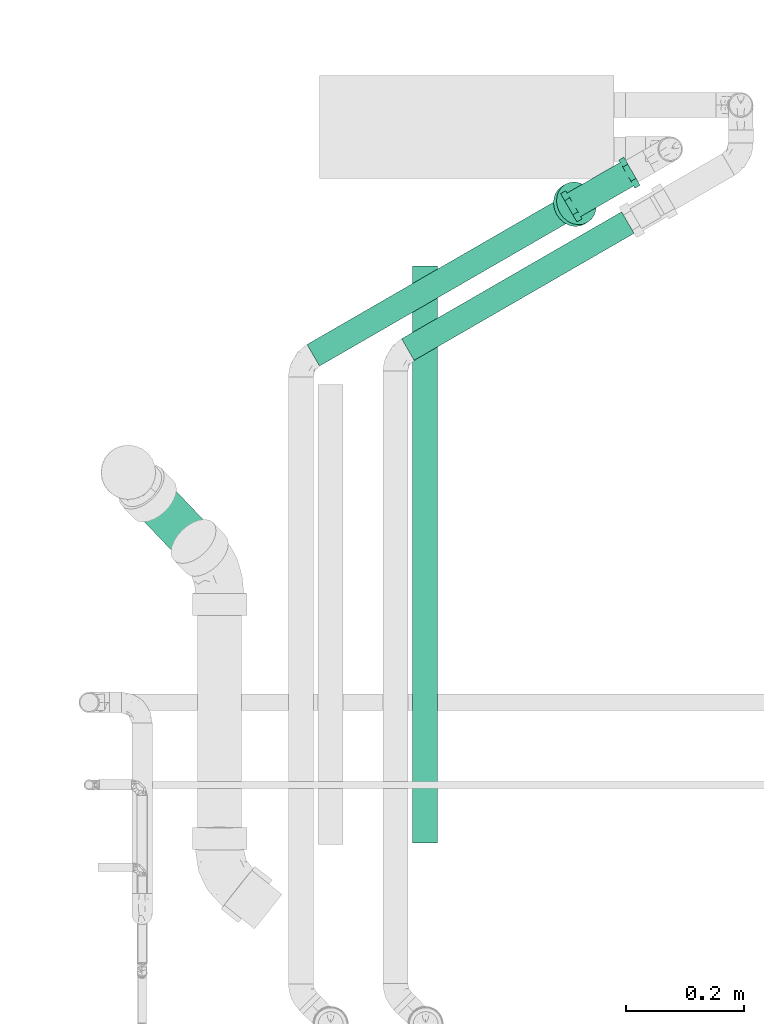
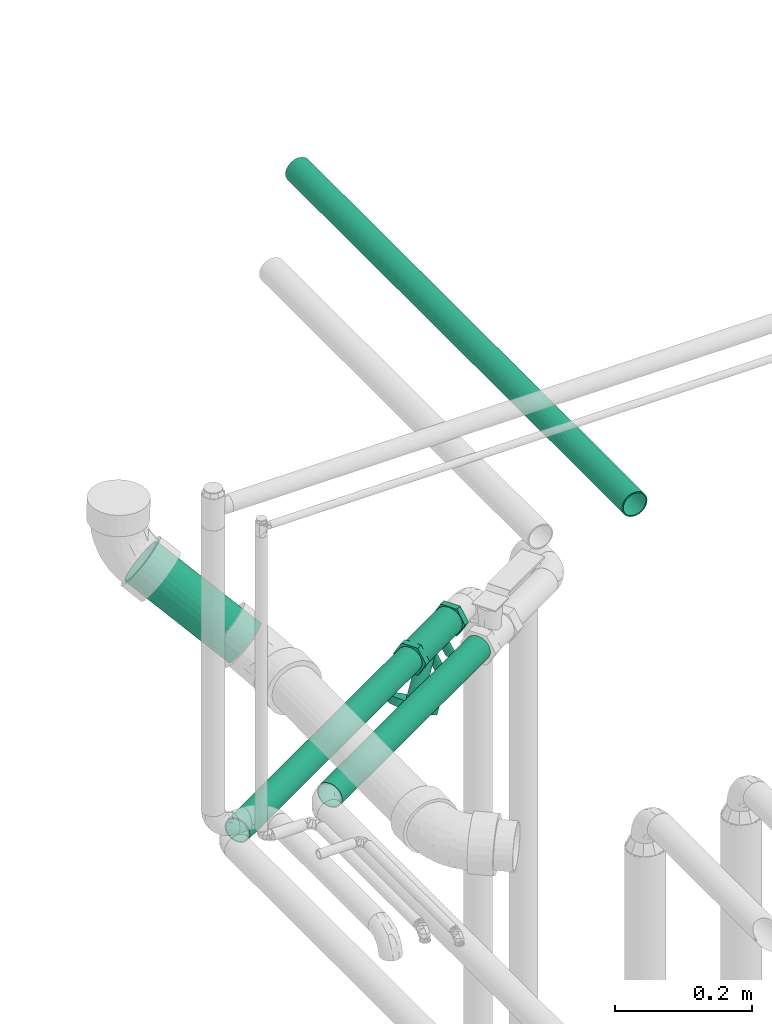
# One storey, part 42 of 108: 4 flow segments, 1 flow controller.
"""IFC2X3 building model written with IfcOpenShell, lengths in millimetres."""

from ifc_helpers import new_model, entity, si_unit, converted_unit, derived_unit, direction, frame, origin_with_axes, origin_2d_with_axis, place, context, subcontext, project, spatial, hollow_circle, extrude, open_shell, surface_model, source, transform, mapped, type_object, element, save


model = new_model("IFC2X3")

# Units and contexts
model_context = context("Model", 3, precision=0.01, world=frame((0.0, 4.29681676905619e-09, 0.0)), true_north=direction((4.01073788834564e-13, 1.0)))
plan_context = context("Plan", 3, precision=0.01, world=frame((0.0, 4.29681676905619e-09, 0.0)), true_north=direction((4.01073788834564e-13, 1.0)))
body_context = subcontext(model_context, "Body", "Model", "MODEL_VIEW")
ifc_project = project(units=[converted_unit("PLANEANGLEUNIT", "DEGREE", entity("IfcPositiveLengthMeasure", 0.0174532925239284), si_unit("PLANEANGLEUNIT", "RADIAN"), dimensions=[0, 0, 0, 0, 0, 0, 0]), si_unit("AREAUNIT", "SQUARE_METRE"), si_unit("LENGTHUNIT", "METRE", prefix="MILLI"), si_unit("MASSUNIT", "GRAM", prefix="KILO"), si_unit("POWERUNIT", "WATT"), si_unit("PRESSUREUNIT", "PASCAL", prefix="KILO"), si_unit("FORCEUNIT", "NEWTON", prefix="KILO"), si_unit("ELECTRICVOLTAGEUNIT", "VOLT"), si_unit("ELECTRICCURRENTUNIT", "AMPERE"), si_unit("THERMODYNAMICTEMPERATUREUNIT", "DEGREE_CELSIUS"), si_unit("TIMEUNIT", "SECOND"), si_unit("VOLUMEUNIT", "CUBIC_METRE"), derived_unit("LINEARVELOCITYUNIT", [(si_unit("LENGTHUNIT", "METRE"), 1), (si_unit("TIMEUNIT", "SECOND"), -1)]), derived_unit("VOLUMETRICFLOWRATEUNIT", [(si_unit("VOLUMEUNIT", "CUBIC_METRE"), 1), (si_unit("TIMEUNIT", "SECOND"), -1)]), derived_unit("THERMALTRANSMITTANCEUNIT", [(si_unit("POWERUNIT", "WATT"), 1), (si_unit("THERMODYNAMICTEMPERATUREUNIT", "KELVIN"), -1), (si_unit("AREAUNIT", "SQUARE_METRE"), -1)]), derived_unit("SOUNDPRESSUREUNIT", [(si_unit("PRESSUREUNIT", "PASCAL"), 1)])], contexts=[model_context, plan_context])

# Site, building, storey
site_placement = place(None, frame((0.0, -4.29681676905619e-09, 0.0), z_axis=(0.0, 0.0, 1.0), x_axis=(1.0, 0.0, 0.0)))
site = spatial("IfcSite", under=ifc_project, at=site_placement, CompositionType="ELEMENT")
building_placement = place(site_placement, frame((0.0, 4.29681676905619e-09, 0.0), z_axis=(0.0, 0.0, 1.0), x_axis=(1.0, 0.0, 0.0)))
building = spatial("IfcBuilding", under=site, at=building_placement, Name="mc-building", CompositionType="ELEMENT")
storey_placement = place(building_placement, frame((0.0, 0.0, 210200.0), z_axis=(0.0, 0.0, 1.0), x_axis=(1.0, 0.0, 0.0)))
storey = spatial("IfcBuildingStorey", under=building, at=storey_placement, Name="Nivå F - 0,7 m", CompositionType="ELEMENT", Elevation=210200.0)

# Flow controller
valve_type = type_object("IfcValveType", Name="STAD/F-32", PredefinedType="NOTDEFINED")
shared_shape_1 = source(origin_with_axes(), body_context, "Body", "SurfaceModel", [
    surface_model("IfcShellBasedSurfaceModel", [(5.41266, -10.82532, 3.125), (7.65466, -8.83883, 4.41942), (5.32606, -10.65211, 3.075), (2.75697, -11.88089, 1.59174), (0.0, -12.3, 0.0), (2.8018, -12.07407, 1.61762), (0.0, -12.5, 0.0), (7.53218, -8.69741, 4.34871), (10.45645, -3.23524, 6.03704), (10.65211, 0.0, 6.15), (10.28915, -3.18347, 5.94044), (10.82532, 0.0, 6.25), (9.375, -6.25, 5.41266), (9.225, -6.15, 5.32606), (-2.75697, -11.88089, -1.59174), (-2.8018, -12.07407, -1.61762), (-5.32606, -10.65211, -3.075), (-7.65466, -8.83883, -4.41942), (-5.41266, -10.82532, -3.125), (-7.53218, -8.69741, -4.34871), (-9.225, -6.15, -5.32606), (-9.375, -6.25, -5.41266), (-10.28915, -3.18347, -5.94044), (-10.45645, -3.23524, -6.03704), (-10.65211, 0.0, -6.15), (-10.82532, 0.0, -6.25), (10.45645, 3.23524, 6.03704), (10.28915, 3.18347, 5.94044), (9.225, 6.15, 5.32606), (9.375, 6.25, 5.41266), (7.53218, 8.69741, 4.34871), (7.65466, 8.83883, 4.41942), (5.41266, 10.82532, 3.125), (5.32606, 10.65211, 3.075), (2.75697, 11.88089, 1.59174), (2.8018, 12.07407, 1.61762), (0.0, 12.3, 0.0), (0.0, 12.5, 0.0), (-9.375, 6.25, -5.41266), (-9.225, 6.15, -5.32606), (-7.65466, 8.83883, -4.41942), (-7.53218, 8.69741, -4.34871), (-10.45645, 3.23524, -6.03704), (-10.28915, 3.18347, -5.94044), (-2.75697, 11.88089, -1.59174), (-2.8018, 12.07407, -1.61762), (-5.32606, 10.65211, -3.075), (-5.41266, 10.82532, -3.125), (62.0, 13.86, -24.00622), (62.0, 27.72, 0.0), (62.0, -13.86, -24.00622), (62.0, 13.86, 24.00622), (62.0, -13.86, 24.00622), (62.0, -27.72, 0.0), (52.0, -27.72, 0.0), (52.0, -13.86, 24.00622), (52.0, -13.86, -24.00622), (52.0, 27.72, 0.0), (52.0, 13.86, -24.00622), (52.0, 13.86, 24.00622), (-62.0, -13.86, -24.00622), (-62.0, -27.72, 0.0), (-62.0, 13.86, -24.00622), (-62.0, -13.86, 24.00622), (-62.0, 13.86, 24.00622), (-62.0, 27.72, 0.0), (-52.0, 27.72, 0.0), (-52.0, 13.86, 24.00622), (-52.0, 13.86, -24.00622), (-52.0, -27.72, 0.0), (-52.0, -13.86, -24.00622), (-52.0, -13.86, 24.00622), (61.40539, 36.22222, -86.94584), (69.23797, 32.47595, -82.42369), (75.96396, 26.5165, -78.54045), (36.76202, 32.47595, -101.17369), (84.36936, 9.70571, -73.68759), (81.125, 18.75, -75.56072), (21.63063, -9.70571, -109.90981), (21.63063, 9.70571, -109.90981), (44.5946, 36.22222, -96.65155), (52.99999, 37.5, -91.79869), (30.03603, 26.5165, -105.05695), (24.87499, 18.75, -108.03667), (85.47595, 0.0, -73.0487), (52.99999, -37.5, -91.79869), (84.36936, -9.70571, -73.68759), (81.125, -18.75, -75.56072), (69.23797, -32.47595, -82.42369), (75.96396, -26.5165, -78.54045), (61.40539, -36.22222, -86.94584), (24.87499, -18.75, -108.03667), (20.52404, 0.0, -110.54869), (36.76202, -32.47595, -101.17369), (30.03603, -26.5165, -105.05695), (44.5946, -36.22222, -96.65155), (78.36936, -9.70571, -63.29528), (47.0, -37.5, -81.40639), (55.40539, -36.22222, -76.55353), (63.23797, -32.47595, -72.03139), (75.125, -18.75, -65.16841), (69.96396, -26.5165, -68.14814), (15.63063, -9.70571, -99.5175), (38.5946, -36.22222, -86.25925), (24.03603, -26.5165, -94.66464), (30.76202, -32.47595, -90.78139), (18.87499, -18.75, -97.64437), (15.63063, 9.70571, -99.5175), (14.52404, 0.0, -100.15639), (69.96396, 26.5165, -68.14814), (78.36936, 9.70571, -63.29528), (75.125, 18.75, -65.16841), (63.23797, 32.47595, -72.03139), (55.40539, 36.22222, -76.55353), (30.76202, 32.47595, -90.78139), (18.87499, 18.75, -97.64437), (24.03603, 26.5165, -94.66464), (47.0, 37.5, -81.40639), (38.5946, 36.22222, -86.25925), (79.47595, 0.0, -62.65639), (52.0, 11.55, -20.00519), (52.0, -5.97872, -22.31289), (52.0, 5.97872, -22.31289), (52.0, 20.00519, -11.55), (52.0, 16.33417, -16.33417), (52.0, -22.31289, -5.97872), (52.0, 22.31289, -5.97872), (52.0, -16.33417, 16.33417), (52.0, -11.55, -20.00519), (52.0, 0.0, -23.1), (52.0, -16.33417, -16.33417), (52.0, -20.00519, -11.55), (52.0, 23.1, 0.0), (52.0, 22.31289, 5.97872), (52.0, 20.00519, 11.55), (52.0, 16.33417, 16.33417), (52.0, 11.55, 20.00519), (52.0, 5.97872, 22.31289), (52.0, 0.0, 23.1), (52.0, -22.31289, 5.97872), (52.0, -20.00519, 11.55), (52.0, -23.1, 0.0), (52.0, -5.97872, 22.31289), (52.0, -11.55, 20.00519), (-52.0, 0.0, 23.1), (-52.0, 5.97872, 22.31289), (-52.0, 11.55, 20.00519), (-52.0, -16.33417, 16.33417), (-52.0, 16.33417, 16.33417), (-52.0, 20.00519, 11.55), (-52.0, 22.31289, 5.97872), (-52.0, -5.97872, 22.31289), (-52.0, -11.55, 20.00519), (-52.0, -22.31289, 5.97872), (-52.0, -20.00519, 11.55), (-52.0, -23.1, 0.0), (-52.0, -22.31289, -5.97872), (-52.0, 22.31289, -5.97872), (-52.0, 16.33417, -16.33417), (-52.0, 20.00519, -11.55), (-52.0, -5.97872, -22.31289), (-52.0, 11.55, -20.00519), (-52.0, 0.0, -23.1), (-52.0, 5.97872, -22.31289), (-52.0, -16.33417, -16.33417), (-52.0, -20.00519, -11.55), (-52.0, -11.55, -20.00519), (-52.0, 23.1, 0.0), (-26.24732, 7.24444, -75.15582), (-24.68081, 6.49519, -76.06025), (-23.33561, 5.3033, -76.8369), (-31.176, 6.49519, -72.31025), (-22.3034, 3.75, -77.43284), (-21.65453, 1.94114, -77.80747), (-21.43321, 0.0, -77.93525), (-21.65453, -1.94114, -77.80747), (-33.5534, 3.75, -70.93765), (-27.9284, 7.5, -74.18525), (-29.60948, 7.24444, -73.21468), (-32.5212, 5.3033, -71.5336), (-34.42359, 0.0, -70.43524), (-34.20228, 1.94114, -70.56303), (-22.3034, -3.75, -77.43284), (-23.33561, -5.3033, -76.8369), (-24.68081, -6.49519, -76.06025), (-26.24732, -7.24444, -75.15582), (-27.9284, -7.5, -74.18525), (-29.60948, -7.24444, -73.21468), (-34.20228, -1.94114, -70.56303), (-31.176, -6.49519, -72.31025), (-33.5534, -3.75, -70.93765), (-32.5212, -5.3033, -71.5336), (19.69659, -3.75, -4.68671), (14.07159, -7.5, -1.43911), (15.75267, -7.24444, -2.40968), (18.66439, -5.3033, -4.09076), (17.31919, -6.49519, -3.31411), (9.4788, -5.3033, 1.21254), (8.44659, -3.75, 1.80848), (20.34547, -1.94114, -5.06133), (12.39051, -7.24444, -0.46854), (10.824, -6.49519, 0.43589), (7.79772, -1.94114, 2.18311), (7.79772, 1.94114, 2.18311), (7.5764, 0.0, 2.31089), (10.824, 6.49519, 0.43589), (18.66439, 5.3033, -4.09076), (20.56678, 0.0, -5.18911), (20.34547, 1.94114, -5.06133), (19.69659, 3.75, -4.68671), (17.31919, 6.49519, -3.31411), (15.75267, 7.24444, -2.40968), (9.4788, 5.3033, 1.21254), (8.44659, 3.75, 1.80848), (14.07159, 7.5, -1.43911), (12.39051, 7.24444, -0.46854), (-48.50132, 1.94114, -62.30747), (-53.09411, 7.24444, -59.65582), (-51.5276, 6.49519, -60.56025), (-50.1824, 5.3033, -61.33689), (-61.04906, 1.94114, -55.06303), (-49.15019, 3.75, -61.93284), (-59.36798, -5.3033, -56.0336), (-56.45627, 7.24444, -57.71467), (-54.77519, 7.5, -58.68524), (-58.02278, 6.49519, -56.81025), (-59.36798, 5.3033, -56.0336), (-60.40019, 3.75, -55.43765), (-48.28, 0.0, -62.43525), (-48.50132, -1.94114, -62.30747), (-49.15019, -3.75, -61.93284), (-50.1824, -5.3033, -61.33689), (-53.09411, -7.24444, -59.65582), (-51.5276, -6.49519, -60.56025), (-54.77519, -7.5, -58.68524), (-61.04906, -1.94114, -55.06303), (-60.40019, -3.75, -55.43765), (-61.27038, 0.0, -54.93525), (-56.45627, -7.24444, -57.71467), (-58.02278, -6.49519, -56.81025), (-28.59411, -7.24444, -17.22057), (-34.86799, -5.3033, -13.59835), (-30.27519, -7.5, -16.25), (-25.6824, -5.3033, -18.90165), (-27.0276, -6.49519, -18.125), (-24.65019, -3.75, -19.49759), (-24.00132, -1.94114, -19.87222), (-36.54907, 1.94114, -12.62778), (-31.95627, -7.24444, -15.27943), (-33.52279, -6.49519, -14.375), (-35.90019, -3.75, -13.00241), (-36.54907, -1.94114, -12.62778), (-36.77038, 0.0, -12.5), (-24.00132, 1.94114, -19.87222), (-25.6824, 5.3033, -18.90165), (-24.65019, 3.75, -19.49759), (-27.0276, 6.49519, -18.125), (-28.59411, 7.24444, -17.22057), (-34.86799, 5.3033, -13.59835), (-35.90019, 3.75, -13.00241), (-33.52279, 6.49519, -14.375), (-30.27519, 7.5, -16.25), (-31.95627, 7.24444, -15.27943), (-23.78, 0.0, -20.0), (52.41265, 10.82532, -78.28139), (54.65465, 8.83883, -76.98697), (52.32605, 10.65211, -78.33139), (49.75696, 11.88089, -79.81465), (47.0, 12.3, -81.40639), (49.80179, 12.07407, -79.78877), (47.0, 12.5, -81.40639), (54.53218, 8.69741, -77.05769), (57.45645, 3.23524, -75.36935), (57.65211, 0.0, -75.25639), (57.28914, 3.18347, -75.46595), (57.82531, 0.0, -75.15639), (56.375, 6.25, -75.99373), (56.225, 6.15, -76.08034), (44.24303, 11.88089, -82.99813), (44.1982, 12.07407, -83.02401), (41.67394, 10.65211, -84.48139), (39.34534, 8.83883, -85.82581), (41.58734, 10.82532, -84.53139), (39.46781, 8.69741, -85.75509), (37.77499, 6.15, -86.73244), (37.62499, 6.25, -86.81905), (36.71085, 3.18347, -87.34683), (36.54354, 3.23524, -87.44343), (36.34788, 0.0, -87.55639), (36.17468, 0.0, -87.65639), (57.45645, -3.23524, -75.36935), (57.28914, -3.18347, -75.46595), (56.225, -6.15, -76.08034), (56.375, -6.25, -75.99373), (54.53218, -8.69741, -77.05769), (54.65465, -8.83883, -76.98697), (52.41265, -10.82532, -78.28139), (52.32605, -10.65211, -78.33139), (49.75696, -11.88089, -79.81465), (49.80179, -12.07407, -79.78877), (47.0, -12.3, -81.40639), (47.0, -12.5, -81.40639), (37.62499, -6.25, -86.81905), (37.77499, -6.15, -86.73244), (39.34534, -8.83883, -85.82581), (39.46781, -8.69741, -85.75509), (36.54354, -3.23524, -87.44343), (36.71085, -3.18347, -87.34683), (44.24303, -11.88089, -82.99813), (44.1982, -12.07407, -83.02401), (41.67394, -10.65211, -84.48139), (41.58734, -10.82532, -84.53139)], [open_shell([[[0, 1, 2]], [[0, 2, 3]], [[4, 5, 3]], [[5, 4, 6]], [[3, 5, 0]], [[2, 1, 7]], [[8, 9, 10]], [[9, 8, 11]], [[8, 10, 12]], [[7, 12, 13]], [[12, 7, 1]], [[13, 12, 10]], [[6, 14, 15]], [[15, 14, 16]], [[17, 18, 19]], [[16, 18, 15]], [[16, 19, 18]], [[6, 4, 14]], [[20, 21, 17]], [[21, 20, 22]], [[20, 17, 19]], [[23, 22, 24]], [[22, 23, 21]], [[23, 24, 25]], [[11, 26, 27]], [[27, 26, 28]], [[28, 29, 30]], [[29, 28, 26]], [[30, 29, 31]], [[31, 32, 33]], [[33, 32, 34]], [[34, 35, 36]], [[35, 34, 32]], [[36, 35, 37]], [[33, 30, 31]], [[38, 39, 40]], [[40, 39, 41]], [[39, 38, 42]], [[25, 43, 42]], [[42, 43, 39]], [[25, 24, 43]], [[44, 37, 45]], [[44, 45, 46]], [[41, 47, 40]], [[41, 46, 47]], [[47, 46, 45]], [[36, 37, 44]], [[27, 9, 11]], [[48, 49, 50]], [[50, 49, 51]], [[50, 52, 53]], [[52, 50, 51]], [[54, 55, 56]], [[56, 55, 57]], [[57, 58, 56]], [[57, 55, 59]], [[52, 51, 55]], [[59, 55, 51]], [[53, 52, 55]], [[55, 54, 53]], [[50, 53, 54]], [[54, 56, 50]], [[48, 50, 58]], [[56, 58, 50]], [[49, 48, 57]], [[58, 57, 48]], [[51, 49, 59]], [[57, 59, 49]], [[60, 61, 62]], [[62, 61, 63]], [[62, 64, 65]], [[64, 62, 63]], [[66, 67, 68]], [[68, 67, 69]], [[69, 70, 68]], [[69, 67, 71]], [[64, 63, 67]], [[71, 67, 63]], [[65, 64, 67]], [[67, 66, 65]], [[62, 65, 66]], [[66, 68, 62]], [[60, 62, 70]], [[68, 70, 62]], [[61, 60, 69]], [[70, 69, 60]], [[63, 61, 71]], [[69, 71, 61]], [[72, 73, 74]], [[75, 72, 74]], [[75, 74, 76]], [[76, 74, 77]], [[78, 79, 76]], [[72, 80, 81]], [[72, 75, 80]], [[82, 79, 83]], [[79, 82, 75]], [[76, 79, 75]], [[76, 84, 78]], [[85, 86, 87]], [[88, 87, 89]], [[88, 90, 85]], [[88, 85, 87]], [[86, 85, 91]], [[86, 91, 78]], [[92, 79, 78]], [[91, 93, 94]], [[91, 85, 93]], [[93, 85, 95]], [[78, 84, 86]], [[96, 97, 98]], [[96, 98, 99]], [[100, 96, 99]], [[100, 99, 101]], [[97, 96, 102]], [[103, 104, 105]], [[104, 103, 102]], [[104, 102, 106]], [[103, 97, 102]], [[102, 107, 108]], [[102, 96, 109]], [[96, 110, 109]], [[109, 110, 111]], [[109, 112, 113]], [[109, 114, 102]], [[113, 114, 109]], [[115, 114, 116]], [[107, 102, 115]], [[114, 117, 118]], [[115, 102, 114]], [[117, 114, 113]], [[119, 110, 96]], [[107, 79, 108]], [[115, 83, 107]], [[75, 116, 114]], [[115, 116, 82]], [[80, 114, 118]], [[107, 83, 79]], [[79, 92, 108]], [[80, 75, 114]], [[82, 116, 75]], [[82, 83, 115]], [[81, 80, 118]], [[118, 117, 81]], [[113, 72, 117]], [[112, 73, 113]], [[77, 109, 111]], [[112, 109, 74]], [[76, 111, 110]], [[112, 74, 73]], [[73, 72, 113]], [[84, 76, 110]], [[77, 111, 76]], [[77, 74, 109]], [[119, 84, 110]], [[117, 72, 81]], [[96, 86, 119]], [[100, 87, 96]], [[88, 101, 99]], [[100, 101, 89]], [[90, 99, 98]], [[96, 87, 86]], [[86, 84, 119]], [[90, 88, 99]], [[89, 101, 88]], [[89, 87, 100]], [[85, 90, 98]], [[98, 97, 85]], [[103, 95, 97]], [[105, 93, 103]], [[91, 104, 106]], [[105, 104, 94]], [[78, 106, 102]], [[105, 94, 93]], [[93, 95, 103]], [[92, 78, 102]], [[91, 106, 78]], [[91, 94, 104]], [[108, 92, 102]], [[97, 95, 85]], [[120, 121, 122]], [[123, 120, 124]], [[125, 120, 126]], [[126, 120, 123]], [[127, 125, 126]], [[121, 125, 128]], [[121, 129, 122]], [[130, 125, 131]], [[125, 130, 128]], [[120, 125, 121]], [[126, 132, 127]], [[133, 134, 135]], [[133, 135, 136]], [[136, 137, 138]], [[133, 136, 127]], [[127, 136, 138]], [[139, 127, 140]], [[139, 141, 125]], [[127, 142, 143]], [[125, 127, 139]], [[138, 142, 127]], [[127, 132, 133]], [[144, 145, 146]], [[147, 144, 146]], [[148, 149, 150]], [[148, 150, 146]], [[147, 146, 150]], [[151, 147, 152]], [[151, 144, 147]], [[147, 153, 154]], [[155, 153, 156]], [[153, 147, 156]], [[147, 150, 156]], [[156, 150, 157]], [[158, 157, 159]], [[160, 157, 161]], [[161, 157, 158]], [[162, 161, 163]], [[156, 164, 165]], [[164, 156, 166]], [[156, 160, 166]], [[156, 157, 160]], [[161, 162, 160]], [[157, 150, 167]], [[125, 156, 165]], [[164, 131, 165]], [[128, 166, 160]], [[164, 166, 130]], [[121, 160, 162]], [[156, 141, 155]], [[156, 125, 141]], [[165, 131, 125]], [[164, 130, 131]], [[128, 130, 166]], [[160, 121, 128]], [[162, 129, 121]], [[122, 163, 161]], [[158, 120, 161]], [[123, 159, 157]], [[158, 159, 124]], [[126, 157, 167]], [[163, 122, 129]], [[161, 120, 122]], [[158, 124, 120]], [[159, 123, 124]], [[126, 123, 157]], [[167, 132, 126]], [[163, 129, 162]], [[167, 150, 133]], [[136, 146, 145]], [[146, 135, 148]], [[144, 137, 145]], [[167, 133, 132]], [[133, 150, 149]], [[133, 149, 134]], [[149, 148, 134]], [[134, 148, 135]], [[135, 146, 136]], [[145, 137, 136]], [[144, 138, 137]], [[142, 151, 152]], [[147, 143, 152]], [[140, 154, 153]], [[147, 154, 127]], [[139, 153, 155]], [[151, 142, 138]], [[152, 143, 142]], [[147, 127, 143]], [[154, 140, 127]], [[139, 140, 153]], [[155, 141, 139]], [[151, 138, 144]], [[168, 169, 170]], [[171, 168, 170]], [[172, 173, 174]], [[172, 174, 170]], [[175, 176, 170]], [[177, 171, 178]], [[177, 168, 171]], [[171, 176, 179]], [[170, 176, 171]], [[176, 180, 181]], [[175, 170, 174]], [[175, 182, 183]], [[175, 183, 184]], [[184, 185, 186]], [[184, 186, 175]], [[175, 186, 187]], [[188, 189, 190]], [[180, 176, 188]], [[190, 189, 191]], [[189, 188, 187]], [[175, 187, 188]], [[188, 176, 175]], [[192, 193, 194]], [[195, 194, 196]], [[193, 192, 197]], [[192, 194, 195]], [[198, 192, 199]], [[200, 197, 201]], [[200, 193, 197]], [[192, 198, 197]], [[202, 198, 199]], [[202, 203, 204]], [[202, 199, 205]], [[206, 207, 208]], [[206, 208, 209]], [[206, 210, 211]], [[211, 199, 206]], [[211, 205, 199]], [[203, 212, 213]], [[212, 203, 205]], [[205, 214, 215]], [[203, 202, 205]], [[211, 214, 205]], [[206, 199, 207]], [[203, 181, 204]], [[213, 176, 203]], [[171, 212, 205]], [[213, 212, 179]], [[178, 205, 215]], [[203, 176, 181]], [[181, 180, 204]], [[178, 171, 205]], [[179, 212, 171]], [[179, 176, 213]], [[177, 178, 215]], [[215, 214, 177]], [[211, 168, 214]], [[210, 169, 211]], [[172, 206, 209]], [[210, 206, 170]], [[173, 209, 208]], [[210, 170, 169]], [[169, 168, 211]], [[174, 173, 208]], [[172, 209, 173]], [[172, 170, 206]], [[207, 174, 208]], [[214, 168, 177]], [[199, 175, 207]], [[192, 182, 199]], [[184, 195, 196]], [[192, 195, 183]], [[185, 196, 194]], [[207, 175, 174]], [[199, 182, 175]], [[186, 185, 194]], [[182, 192, 183]], [[185, 184, 196]], [[195, 184, 183]], [[194, 193, 186]], [[200, 187, 193]], [[201, 189, 200]], [[201, 197, 189]], [[197, 198, 191]], [[187, 200, 189]], [[189, 197, 191]], [[202, 188, 190]], [[188, 202, 180]], [[202, 204, 180]], [[190, 191, 198]], [[190, 198, 202]], [[193, 187, 186]], [[216, 217, 218]], [[216, 218, 219]], [[217, 216, 220]], [[216, 219, 221]], [[222, 220, 216]], [[217, 223, 224]], [[217, 225, 223]], [[226, 220, 227]], [[220, 226, 225]], [[217, 220, 225]], [[216, 228, 229]], [[229, 230, 231]], [[216, 231, 222]], [[231, 232, 222]], [[232, 231, 233]], [[234, 222, 232]], [[235, 222, 236]], [[237, 220, 235]], [[222, 238, 239]], [[220, 222, 235]], [[234, 238, 222]], [[229, 231, 216]], [[240, 241, 242]], [[243, 240, 244]], [[243, 245, 246]], [[241, 240, 247]], [[247, 240, 243]], [[248, 241, 249]], [[248, 242, 241]], [[241, 247, 250]], [[247, 251, 250]], [[251, 247, 252]], [[246, 253, 243]], [[247, 243, 253]], [[254, 253, 255]], [[256, 257, 253]], [[256, 253, 254]], [[247, 253, 257]], [[247, 258, 259]], [[258, 247, 260]], [[260, 261, 262]], [[260, 247, 257]], [[257, 261, 260]], [[253, 246, 263]], [[247, 220, 252]], [[259, 227, 247]], [[225, 258, 260]], [[259, 258, 226]], [[223, 260, 262]], [[247, 227, 220]], [[220, 237, 252]], [[223, 225, 260]], [[226, 258, 225]], [[226, 227, 259]], [[224, 223, 262]], [[262, 261, 224]], [[257, 217, 261]], [[256, 218, 257]], [[221, 254, 255]], [[256, 254, 219]], [[216, 255, 253]], [[256, 219, 218]], [[218, 217, 257]], [[228, 216, 253]], [[221, 255, 216]], [[221, 219, 254]], [[263, 228, 253]], [[261, 217, 224]], [[246, 229, 263]], [[245, 230, 246]], [[233, 243, 244]], [[245, 243, 231]], [[232, 244, 240]], [[246, 230, 229]], [[229, 228, 263]], [[232, 233, 244]], [[231, 243, 233]], [[231, 230, 245]], [[234, 232, 240]], [[240, 242, 234]], [[248, 238, 242]], [[249, 239, 248]], [[236, 241, 250]], [[249, 241, 222]], [[235, 250, 251]], [[249, 222, 239]], [[239, 238, 248]], [[237, 235, 251]], [[236, 250, 235]], [[236, 222, 241]], [[252, 237, 251]], [[242, 238, 234]], [[264, 265, 266]], [[264, 266, 267]], [[268, 269, 267]], [[269, 268, 270]], [[267, 269, 264]], [[266, 265, 271]], [[272, 273, 274]], [[273, 272, 275]], [[272, 274, 276]], [[271, 276, 277]], [[276, 271, 265]], [[277, 276, 274]], [[270, 278, 279]], [[279, 278, 280]], [[281, 282, 283]], [[280, 282, 279]], [[280, 283, 282]], [[270, 268, 278]], [[284, 285, 281]], [[285, 284, 286]], [[284, 281, 283]], [[287, 286, 288]], [[286, 287, 285]], [[287, 288, 289]], [[275, 290, 291]], [[291, 290, 292]], [[292, 293, 294]], [[293, 292, 290]], [[294, 293, 295]], [[295, 296, 297]], [[297, 296, 298]], [[298, 299, 300]], [[299, 298, 296]], [[300, 299, 301]], [[297, 294, 295]], [[302, 303, 304]], [[304, 303, 305]], [[303, 302, 306]], [[289, 307, 306]], [[306, 307, 303]], [[289, 288, 307]], [[308, 301, 309]], [[308, 309, 310]], [[305, 311, 304]], [[305, 310, 311]], [[311, 310, 309]], [[300, 301, 308]], [[291, 273, 275]], [[42, 287, 25]], [[38, 285, 42]], [[282, 40, 47]], [[38, 40, 281]], [[279, 47, 45]], [[42, 285, 287]], [[287, 289, 25]], [[279, 282, 47]], [[281, 40, 282]], [[281, 285, 38]], [[270, 279, 45]], [[45, 37, 270]], [[35, 269, 37]], [[32, 264, 35]], [[276, 31, 29]], [[32, 31, 265]], [[272, 29, 26]], [[32, 265, 264]], [[264, 269, 35]], [[275, 272, 26]], [[276, 29, 272]], [[276, 265, 31]], [[11, 275, 26]], [[37, 269, 270]], [[8, 290, 11]], [[12, 293, 8]], [[296, 1, 0]], [[12, 1, 295]], [[299, 0, 5]], [[11, 290, 275]], [[8, 293, 290]], [[296, 0, 299]], [[12, 295, 293]], [[1, 296, 295]], [[5, 301, 299]], [[5, 6, 301]], [[15, 309, 6]], [[18, 311, 15]], [[18, 17, 304]], [[17, 21, 304]], [[309, 15, 311]], [[311, 18, 304]], [[306, 23, 289]], [[23, 306, 302]], [[23, 25, 289]], [[302, 304, 21]], [[302, 21, 23]], [[6, 309, 301]], [[24, 286, 43]], [[43, 284, 39]], [[283, 41, 39]], [[280, 46, 41]], [[286, 284, 43]], [[24, 288, 286]], [[280, 278, 44]], [[44, 278, 268]], [[280, 41, 283]], [[39, 284, 283]], [[280, 44, 46]], [[268, 36, 44]], [[33, 34, 267]], [[33, 266, 30]], [[27, 28, 277]], [[271, 28, 30]], [[9, 27, 274]], [[34, 268, 267]], [[266, 33, 267]], [[277, 28, 271]], [[27, 277, 274]], [[271, 30, 266]], [[274, 273, 9]], [[36, 268, 34]], [[9, 291, 10]], [[10, 292, 13]], [[2, 7, 297]], [[294, 7, 13]], [[3, 2, 297]], [[291, 292, 10]], [[9, 273, 291]], [[300, 4, 298]], [[3, 297, 298]], [[297, 7, 294]], [[13, 292, 294]], [[3, 298, 4]], [[16, 14, 308]], [[16, 310, 19]], [[22, 20, 303]], [[305, 20, 19]], [[24, 22, 307]], [[308, 4, 300]], [[16, 308, 310]], [[303, 20, 305]], [[22, 303, 307]], [[305, 19, 310]], [[288, 24, 307]], [[14, 4, 308]]])]),
])
flow_controller_placement = place(storey_placement, frame((324907.08333, 464321.32906, 2171.0), z_axis=(0.0, 0.0, 1.0), x_axis=(-0.866025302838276, -0.500000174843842, 0.0)))
element("IfcFlowController", 1, at=flow_controller_placement, inside=storey, type_object=valve_type, Name="STAD/F-32", context=body_context, shape_type="MappedRepresentation", body=[
    mapped(shared_shape_1, transform((0.0, 0.0, 0.0), scale=1.0)),
])

# Flow segments
pipe_segment_type_1 = type_object("IfcPipeSegmentType", Name="Stålrør normaltykke", PredefinedType="RIGIDSEGMENT")
shared_shape_2 = source(origin_with_axes(), body_context, "Body", "SweptSolid", [
    extrude(hollow_circle(Radius=21.2, WallThickness=2.0, at=origin_2d_with_axis()), frame((0.0, 0.0, 0.0), z_axis=(1.0, 0.0, 0.0), x_axis=(0.0, 1.0, 0.0)), (0.0, 0.0, 1.0), 979.6),
])
flow_segment_1_placement = place(storey_placement, frame((324608.8625, 464191.03556, 3186.0), z_axis=(0.0, 0.0, 1.0), x_axis=(0.0, -1.0, 0.0)))
element("IfcFlowSegment", 2, at=flow_segment_1_placement, inside=storey, type_object=pipe_segment_type_1, Name="Stålrør normaltykke", context=body_context, shape_type="MappedRepresentation", body=[
    mapped(shared_shape_2, transform((0.0, 0.0, 0.0), scale=1.0)),
])
pipe_segment_type_2 = type_object("IfcPipeSegmentType", Name="MA", PredefinedType="RIGIDSEGMENT")
shared_shape_3 = source(origin_with_axes(), body_context, "Body", "SweptSolid", [
    extrude(hollow_circle(Radius=37.5, WallThickness=2.0, at=origin_2d_with_axis()), frame((0.0, 0.0, 0.0), z_axis=(1.0, 0.0, 0.0), x_axis=(0.0, 1.0, 0.0)), (0.0, 0.0, 1.0), 194.9),
])
flow_segment_2_placement = place(storey_placement, frame((324236.78912, 463701.60951, 2772.73149000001), z_axis=(0.0, -0.707106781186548, 0.707106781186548), x_axis=(-0.559193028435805, 0.586218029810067, 0.586218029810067)))
element("IfcFlowSegment", 3, at=flow_segment_2_placement, inside=storey, type_object=pipe_segment_type_2, Name="MA", context=body_context, shape_type="MappedRepresentation", body=[
    mapped(shared_shape_3, transform((0.0, 0.0, 0.0), scale=1.0)),
])
shared_shape_4 = source(origin_with_axes(), body_context, "Body", "SweptSolid", [
    extrude(hollow_circle(Radius=21.2, WallThickness=2.0, at=origin_2d_with_axis()), frame((0.0, 0.0, 0.0), z_axis=(1.0, 0.0, 0.0), x_axis=(0.0, 1.0, 0.0)), (0.0, 0.0, 1.0), 501.2),
])
flow_segment_3_placement = place(storey_placement, frame((324853.38976, 464290.32906, 2171.0), z_axis=(0.0, 0.0, 1.0), x_axis=(-0.866025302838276, -0.500000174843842, 0.0)))
element("IfcFlowSegment", 4, at=flow_segment_3_placement, inside=storey, type_object=pipe_segment_type_1, Name="Stålrør normaltykke", context=body_context, shape_type="MappedRepresentation", body=[
    mapped(shared_shape_4, transform((0.0, 0.0, 0.0), scale=1.0)),
])
shared_shape_5 = source(origin_with_axes(), body_context, "Body", "SweptSolid", [
    extrude(hollow_circle(Radius=21.2, WallThickness=2.0, at=origin_2d_with_axis()), frame((0.0, 0.0, 0.0), z_axis=(1.0, 0.0, 0.0), x_axis=(0.0, 1.0, 0.0)), (0.0, 0.0, 1.0), 431.5),
])
flow_segment_4_placement = place(storey_placement, frame((324953.77333, 464265.14942, 2171.0), z_axis=(0.0, 0.0, 1.0), x_axis=(-0.866025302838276, -0.500000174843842, 0.0)))
element("IfcFlowSegment", 5, at=flow_segment_4_placement, inside=storey, type_object=pipe_segment_type_1, Name="Stålrør normaltykke", context=body_context, shape_type="MappedRepresentation", body=[
    mapped(shared_shape_5, transform((0.0, 0.0, 0.0), scale=1.0)),
])

save(model, "model.ifc")
